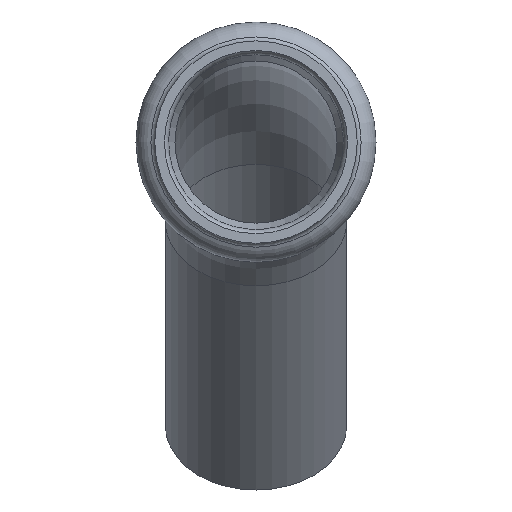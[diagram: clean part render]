
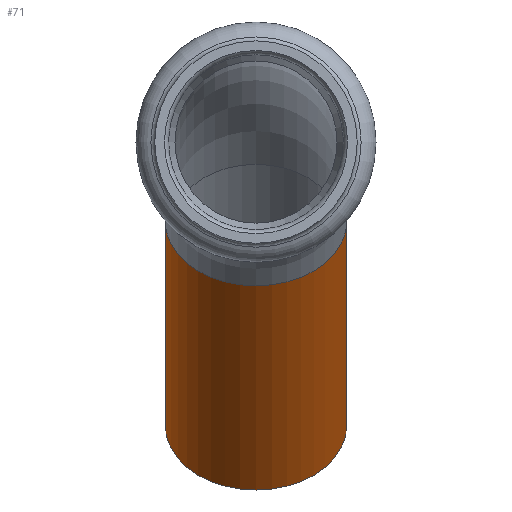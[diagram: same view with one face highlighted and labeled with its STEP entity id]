
A CAD part, front view. The second image highlights one B-rep face of the part: STEP entity #71.
In plain terms, the highlighted cylindrical face has radius 14 mm (diameter 28 mm), a full revolution.
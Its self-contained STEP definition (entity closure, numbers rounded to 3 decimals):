
#71=ADVANCED_FACE('',(#236,#238),#240,.T.);
#236=FACE_OUTER_BOUND('',#237,.T.);
#237=EDGE_LOOP('',(#305));
#238=FACE_OUTER_BOUND('',#239,.T.);
#239=EDGE_LOOP('',(#306));
#240=CYLINDRICAL_SURFACE('',#241,14.);
#241=AXIS2_PLACEMENT_3D('',#242,#243,#244);
#242=CARTESIAN_POINT('',(0.,64.302,-12.302));
#243=DIRECTION('',(0.,0.707,-0.707));
#244=DIRECTION('',(-1.,0.,0.));
#305=ORIENTED_EDGE('',*,*,#333,.F.);
#306=ORIENTED_EDGE('',*,*,#335,.T.);
#333=EDGE_CURVE('',#378,#378,#379,.T.);
#335=EDGE_CURVE('',#382,#382,#383,.T.);
#378=VERTEX_POINT('',#488);
#379=CIRCLE('',#489,14.);
#382=VERTEX_POINT('',#498);
#383=CIRCLE('',#499,14.);
#488=CARTESIAN_POINT('',(-14.,95.841,-43.841));
#489=AXIS2_PLACEMENT_3D('',#490,#491,#492);
#490=CARTESIAN_POINT('',(0.,95.841,-43.841));
#491=DIRECTION('',(0.,0.707,-0.707));
#492=DIRECTION('',(-1.,0.,0.));
#498=CARTESIAN_POINT('',(-14.,64.302,-12.302));
#499=AXIS2_PLACEMENT_3D('',#500,#501,#502);
#500=CARTESIAN_POINT('',(0.,64.302,-12.302));
#501=DIRECTION('',(0.,0.707,-0.707));
#502=DIRECTION('',(-1.,0.,0.));
